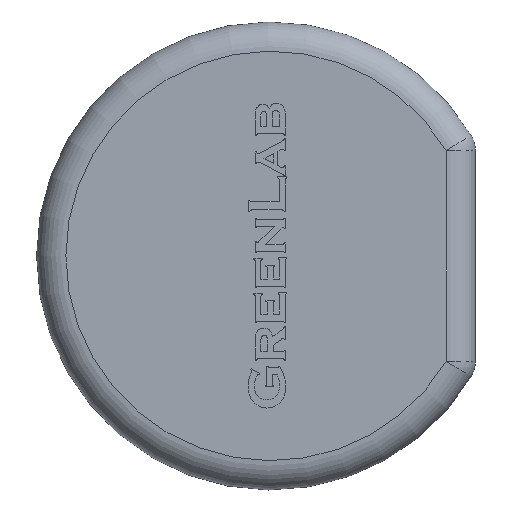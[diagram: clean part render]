
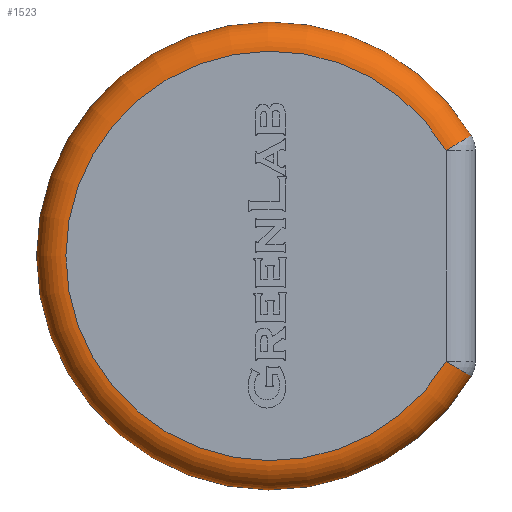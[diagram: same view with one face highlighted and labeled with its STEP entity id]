
A CAD part, top view. The second image highlights one B-rep face of the part: STEP entity #1523.
In plain terms, the highlighted toroidal (fillet/blend) face has major radius 14 mm and minor radius 2 mm.
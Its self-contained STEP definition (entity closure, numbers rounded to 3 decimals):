
#549 = CARTESIAN_POINT ( 'NONE',  ( 12., -7.211, 1. ) ) ;
#552 = VERTEX_POINT ( 'NONE', #3655 ) ;
#806 = AXIS2_PLACEMENT_3D ( 'NONE', #549, #1253, #3484 ) ;
#909 = ORIENTED_EDGE ( 'NONE', *, *, #4197, .F. ) ;
#1253 = DIRECTION ( 'NONE',  ( 0.515, 0.857, 0. ) ) ;
#1295 = AXIS2_PLACEMENT_3D ( 'NONE', #4943, #9717, #2565 ) ;
#1523 = ADVANCED_FACE ( 'NONE', ( #4423 ), #9059, .T. ) ;
#2101 = AXIS2_PLACEMENT_3D ( 'NONE', #6834, #2378, #3183 ) ;
#2195 = DIRECTION ( 'NONE',  ( 1., 0., 0. ) ) ;
#2378 = DIRECTION ( 'NONE',  ( 0., 0., -1. ) ) ;
#2565 = DIRECTION ( 'NONE',  ( 1., 0., 0. ) ) ;
#2597 = CIRCLE ( 'NONE', #1295, 14. ) ;
#3123 = EDGE_LOOP ( 'NONE', ( #6205, #909, #4879, #4203 ) ) ;
#3183 = DIRECTION ( 'NONE',  ( 1., 0., 0. ) ) ;
#3454 = CARTESIAN_POINT ( 'NONE',  ( 12., -7.211, 3. ) ) ;
#3484 = DIRECTION ( 'NONE',  ( -0.857, 0.515, 0. ) ) ;
#3655 = CARTESIAN_POINT ( 'NONE',  ( 12., 7.211, 3. ) ) ;
#3657 = DIRECTION ( 'NONE',  ( 0., 0., 1. ) ) ;
#3804 = CARTESIAN_POINT ( 'NONE',  ( 13.714, 8.241, 1. ) ) ;
#3893 = DIRECTION ( 'NONE',  ( -0.515, 0.857, 0. ) ) ;
#4197 = EDGE_CURVE ( 'NONE', #9958, #5503, #6946, .T. ) ;
#4203 = ORIENTED_EDGE ( 'NONE', *, *, #5272, .F. ) ;
#4358 = AXIS2_PLACEMENT_3D ( 'NONE', #10010, #3657, #2195 ) ;
#4396 = EDGE_CURVE ( 'NONE', #8360, #9958, #9722, .T. ) ;
#4423 = FACE_OUTER_BOUND ( 'NONE', #3123, .T. ) ;
#4879 = ORIENTED_EDGE ( 'NONE', *, *, #4396, .F. ) ;
#4943 = CARTESIAN_POINT ( 'NONE',  ( 0., 0., 3. ) ) ;
#5111 = EDGE_CURVE ( 'NONE', #552, #5503, #8757, .T. ) ;
#5272 = EDGE_CURVE ( 'NONE', #552, #8360, #2597, .T. ) ;
#5503 = VERTEX_POINT ( 'NONE', #3804 ) ;
#6205 = ORIENTED_EDGE ( 'NONE', *, *, #5111, .T. ) ;
#6834 = CARTESIAN_POINT ( 'NONE',  ( 0., 0., 1. ) ) ;
#6946 = CIRCLE ( 'NONE', #2101, 16. ) ;
#7239 = CARTESIAN_POINT ( 'NONE',  ( 13.714, -8.241, 1. ) ) ;
#7290 = AXIS2_PLACEMENT_3D ( 'NONE', #10047, #3893, #9386 ) ;
#8360 = VERTEX_POINT ( 'NONE', #3454 ) ;
#8757 = CIRCLE ( 'NONE', #7290, 2. ) ;
#9059 = TOROIDAL_SURFACE ( 'NONE', #4358, 14., 2. ) ;
#9386 = DIRECTION ( 'NONE',  ( 0.857, 0.515, 0. ) ) ;
#9717 = DIRECTION ( 'NONE',  ( 0., 0., 1. ) ) ;
#9722 = CIRCLE ( 'NONE', #806, 2. ) ;
#9958 = VERTEX_POINT ( 'NONE', #7239 ) ;
#10010 = CARTESIAN_POINT ( 'NONE',  ( 0., 0., 1. ) ) ;
#10047 = CARTESIAN_POINT ( 'NONE',  ( 12., 7.211, 1. ) ) ;
